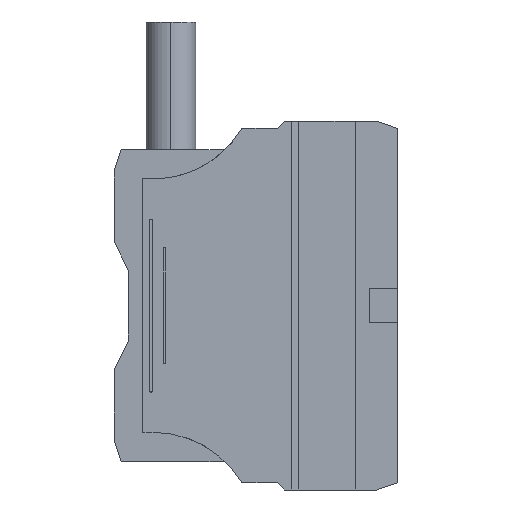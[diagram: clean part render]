
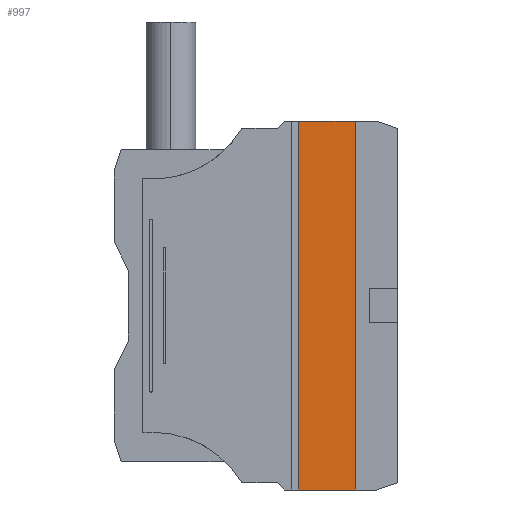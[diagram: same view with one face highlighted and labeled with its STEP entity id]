
A CAD part, left-side view. The second image highlights one B-rep face of the part: STEP entity #997.
In plain terms, the highlighted planar face has unit normal (-1, 0, 0).
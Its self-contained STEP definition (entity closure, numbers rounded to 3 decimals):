
#407 = VECTOR ( 'NONE', #7111, 1000. ) ;
#800 = CARTESIAN_POINT ( 'NONE',  ( -3.8, 14., 0. ) ) ;
#834 = CARTESIAN_POINT ( 'NONE',  ( -3.8, 14., -52. ) ) ;
#851 = PLANE ( 'NONE',  #6619 ) ;
#886 = CARTESIAN_POINT ( 'NONE',  ( -3.8, 6., -52. ) ) ;
#997 = ADVANCED_FACE ( 'NONE', ( #7359 ), #851, .T. ) ;
#1079 = LINE ( 'NONE', #9904, #6465 ) ;
#1287 = VERTEX_POINT ( 'NONE', #7100 ) ;
#1317 = VERTEX_POINT ( 'NONE', #834 ) ;
#1382 = CARTESIAN_POINT ( 'NONE',  ( -3.8, 14., -52. ) ) ;
#1481 = LINE ( 'NONE', #1382, #407 ) ;
#1828 = CARTESIAN_POINT ( 'NONE',  ( -3.8, 6., -52. ) ) ;
#1943 = DIRECTION ( 'NONE',  ( 0., 0., 1. ) ) ;
#2299 = EDGE_LOOP ( 'NONE', ( #2610, #3019, #2623, #10350 ) ) ;
#2317 = EDGE_CURVE ( 'NONE', #1317, #7589, #1079, .T. ) ;
#2427 = CARTESIAN_POINT ( 'NONE',  ( -3.8, 0., 0. ) ) ;
#2610 = ORIENTED_EDGE ( 'NONE', *, *, #2317, .T. ) ;
#2623 = ORIENTED_EDGE ( 'NONE', *, *, #7133, .T. ) ;
#2682 = VECTOR ( 'NONE', #1943, 1000. ) ;
#2951 = EDGE_CURVE ( 'NONE', #9178, #1317, #1481, .T. ) ;
#3019 = ORIENTED_EDGE ( 'NONE', *, *, #8868, .T. ) ;
#3228 = DIRECTION ( 'NONE',  ( 0., 1., 0. ) ) ;
#3319 = LINE ( 'NONE', #800, #7696 ) ;
#3419 = DIRECTION ( 'NONE',  ( -1., 0., 0. ) ) ;
#6465 = VECTOR ( 'NONE', #6761, 1000. ) ;
#6619 = AXIS2_PLACEMENT_3D ( 'NONE', #2427, #3419, #8792 ) ;
#6761 = DIRECTION ( 'NONE',  ( 0., -1., 0. ) ) ;
#7100 = CARTESIAN_POINT ( 'NONE',  ( -3.8, 6., 0. ) ) ;
#7111 = DIRECTION ( 'NONE',  ( 0., 0., -1. ) ) ;
#7133 = EDGE_CURVE ( 'NONE', #1287, #9178, #3319, .T. ) ;
#7248 = CARTESIAN_POINT ( 'NONE',  ( -3.8, 14., 0. ) ) ;
#7359 = FACE_OUTER_BOUND ( 'NONE', #2299, .T. ) ;
#7589 = VERTEX_POINT ( 'NONE', #886 ) ;
#7696 = VECTOR ( 'NONE', #3228, 1000. ) ;
#8792 = DIRECTION ( 'NONE',  ( 0., 0., 1. ) ) ;
#8868 = EDGE_CURVE ( 'NONE', #7589, #1287, #10026, .T. ) ;
#9178 = VERTEX_POINT ( 'NONE', #7248 ) ;
#9904 = CARTESIAN_POINT ( 'NONE',  ( -3.8, 14., -52. ) ) ;
#10026 = LINE ( 'NONE', #1828, #2682 ) ;
#10350 = ORIENTED_EDGE ( 'NONE', *, *, #2951, .T. ) ;
